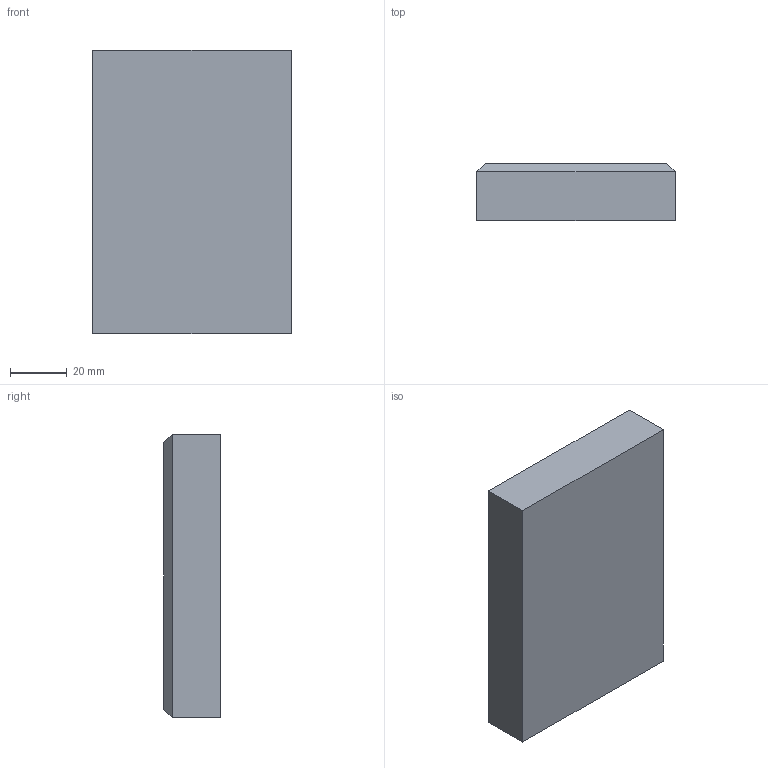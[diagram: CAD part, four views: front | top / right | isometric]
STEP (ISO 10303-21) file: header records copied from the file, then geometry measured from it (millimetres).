
FILE_DESCRIPTION (( 'STEP AP203' ), '1' );
FILE_NAME ('Session-20.STEP', '2025-12-06T09:07:34', ( '' ), ( '' ), 'SwSTEP 2.0', 'SolidWorks 2024', '' );
FILE_SCHEMA (( 'CONFIG_CONTROL_DESIGN' ));
Length unit declared in the file: millimetre
Products named in the file (1): Session-20
Bounding box: 70 x 20 x 100 mm (x, y, z)
Volume: 138506 mm3; surface area: 20187.6 mm2
Topology: 1 solids, 1 shells, 10 faces, 20 edges, 12 vertices
Faces by surface type: plane 10
Entity records: 329 total; most frequent: CARTESIAN_POINT 43, DIRECTION 42, ORIENTED_EDGE 40, VECTOR 20, EDGE_CURVE 20, LINE 20, VERTEX_POINT 12, AXIS2_PLACEMENT_3D 11
